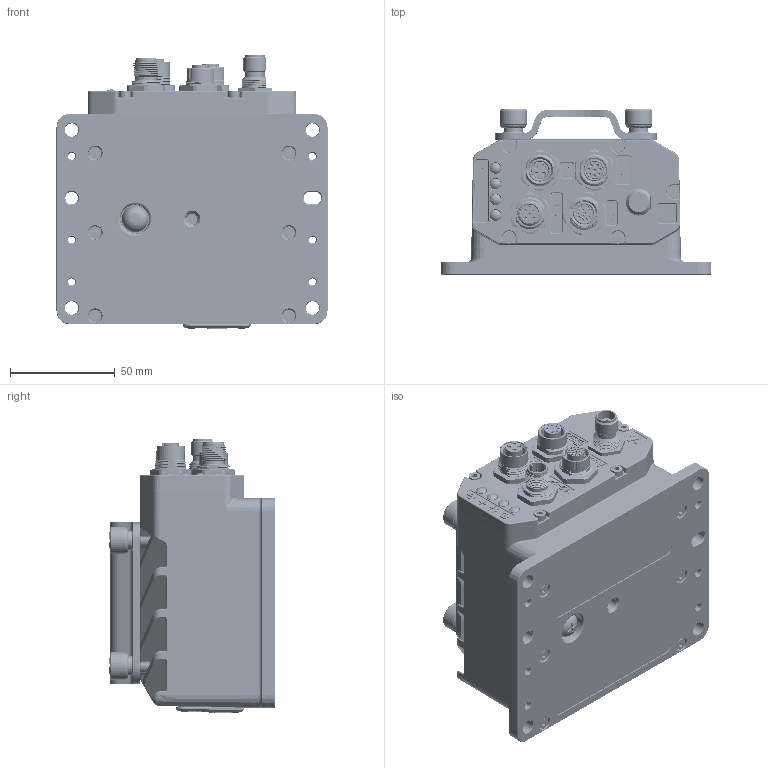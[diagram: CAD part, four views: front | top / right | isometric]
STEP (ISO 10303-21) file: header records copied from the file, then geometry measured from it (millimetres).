
FILE_DESCRIPTION (( 'STEP AP203' ), '1' );
FILE_NAME ('830-00667_A.STEP', '2022-10-05T16:50:30', ( '' ), ( '' ), 'SwSTEP 2.0', 'SolidWorks 2021', '' );
FILE_SCHEMA (( 'CONFIG_CONTROL_DESIGN' ));
Length unit declared in the file: millimetre
Products named in the file (26): SHC_M3-0.5X12_SS188_PV -EX; 810-04609 -EX; CONNECTOR, M12, 8POS, A-CODED, BINDER 76-0532-1011-00008-0200; RM6X6MM-2615 -EX; LOCTITE 243 -EX; CONNECTOR, M12, MALE, 5-POS, TE CONNECTIVITY, T4171010005-001; 810-04615 -EX_AS CAST; 840-00297 -EX; SHC_M3-0.5X10_SS188_PV -EX; 810-04855 -EX; AMSOIL LITHIUM GREASE -EX; CONN, BULKHEAD, M12-D 4-PIN, FEMALE, SOLDER CUP; O-RING, 0.070IN DIA CROSS SECTION, AS568-021, BUNA-N -EX; 810-04618 -EX; 810-04853 -EX; 830-00667_A; 810-04617 -EX_AS CAST; 810-04857 -EX; BHT_M2.5-0.45X5_SS188_PV -EX; CONNECTOR, M12, RECEPTACLE, 17 POS, FEMALE PINS; TNC PIGTAIL-AZ -EX; 810-05277 -EX_DEFAULT; 810-04614 -EX; PEM, PF11MF-M4-1 -EX; 830-00942 -EX
Assembly tree (42 placements, depth 3):
  LOCTITE 243 -EX
  AMSOIL LITHIUM GREASE -EX
  830-00667_A
    810-04853 -EX
      810-04615 -EX_AS CAST
    830-00942 -EX
      810-05277 -EX_DEFAULT
      TNC PIGTAIL-AZ -EX
      840-00297 -EX  x4
    810-04618 -EX
    810-04855 -EX
      810-04617 -EX_AS CAST
    810-04609 -EX
      810-04609 -EX
      PEM, PF11MF-M4-1 -EX  x4
    810-04857 -EX
    O-RING, 0.070IN DIA CROSS SECTION, AS568-021, BUNA-N -EX
    810-04614 -EX  x2
    SHC_M3-0.5X12_SS188_PV -EX  x6
    SHC_M3-0.5X10_SS188_PV -EX  x5
    BHT_M2.5-0.45X5_SS188_PV -EX  x4
    RM6X6MM-2615 -EX
    CONNECTOR, M12, 8POS, A-CODED, BINDER 76-0532-1011-00008-0200
    CONN, BULKHEAD, M12-D 4-PIN, FEMALE, SOLDER CUP
    CONNECTOR, M12, RECEPTACLE, 17 POS, FEMALE PINS
    CONNECTOR, M12, MALE, 5-POS, TE CONNECTIVITY, T4171010005-001
Bounding box: 129.43 x 79.17 x 131.17 mm (x, y, z)
Volume: 581386.4 mm3; surface area: 149899 mm2
Topology: 52 solids, 56 shells, 5140 faces, 12638 edges, 7729 vertices
Faces by surface type: plane 1353, cylinder 1328, cone 1079, bspline 887, torus 457, sphere 36
Entity records: 198197 total; most frequent: CARTESIAN_POINT 91719, ORIENTED_EDGE 22544, DIRECTION 20646, EDGE_CURVE 11272, AXIS2_PLACEMENT_3D 8283, VERTEX_POINT 6978, EDGE_LOOP 5014, FACE_OUTER_BOUND 4647
